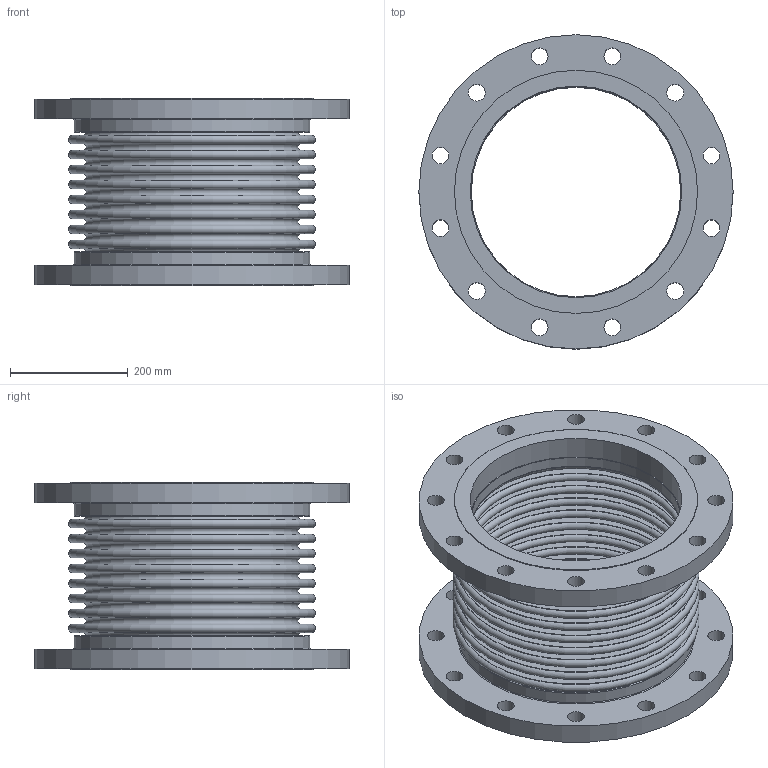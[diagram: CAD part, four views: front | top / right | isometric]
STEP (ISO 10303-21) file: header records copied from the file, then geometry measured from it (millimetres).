
FILE_DESCRIPTION(/* description */ ('EXPANSION JOINT,SINGLE, FLANGED ENDS,14 INCH','CAx-IF Rec.Pracs.---Representation and Presentation of Product Manufacturing Information (PMI)---4.0---2014-10-13'),/* implementation_level */ '2;1');
FILE_NAME(/* name */ 'US-14-8-150S-FLANGED ENDS.stp',/* time_stamp */ '2026-07-31T17:30:23-05:00',/* author */ ('Guadalupe'),/* organization */ (''),/* preprocessor_version */ 'ST-DEVELOPER v20.1',/* originating_system */ 'Autodesk Inventor 2026',/* authorisation */ '');
FILE_SCHEMA (('AP242_MANAGED_MODEL_BASED_3D_ENGINEERING_MIM_LF { 1 0 10303 442 2 1 4 }'));
Length unit declared in the file: inch
Products named in the file (3): 14-150S; 14-150S-02; 14-150S-01
Assembly tree (3 placements, depth 2):
  14-150S
    14-150S-02  x2
    14-150S-01
Bounding box: 533.4 x 533.4 x 317.5 mm (x, y, z)
Volume: 9982764.7 mm3; surface area: 2381882.7 mm2
Topology: 5 solids, 5 shells, 120 faces, 222 edges, 148 vertices
Faces by surface type: plane 46, torus 38, cylinder 36
Full cylindrical faces by diameter (mm): 28.575 x24, 355.6 x2, 358.648 x2, 359.156 x2, 400.05 x2, 412.75 x2, 533.4 x2
Entity records: 2714 total; most frequent: DIRECTION 550, CARTESIAN_POINT 401, ORIENTED_EDGE 336, AXIS2_PLACEMENT_3D 265, EDGE_CURVE 168, EDGE_LOOP 164, CIRCLE 148, VERTEX_POINT 112
